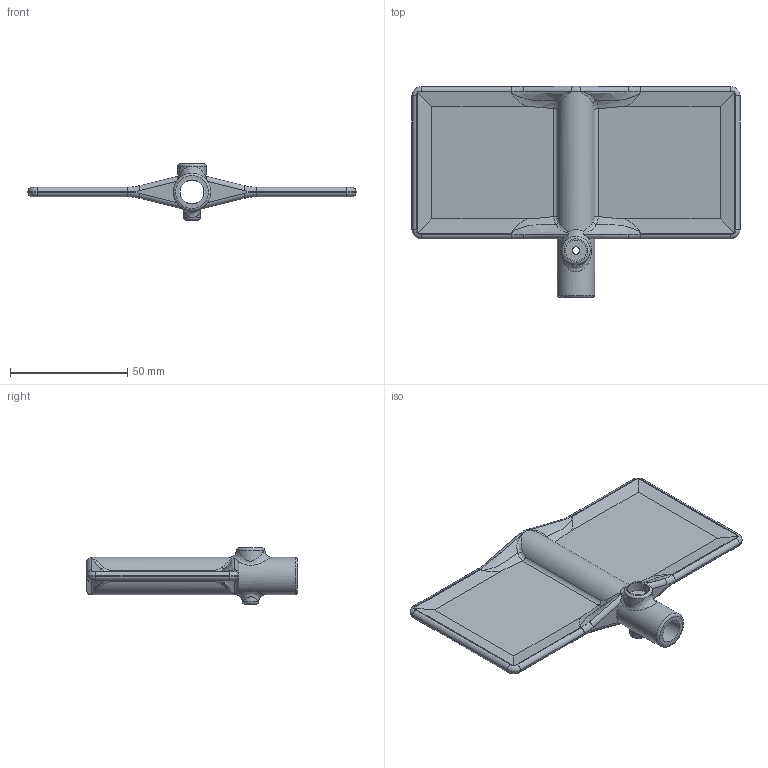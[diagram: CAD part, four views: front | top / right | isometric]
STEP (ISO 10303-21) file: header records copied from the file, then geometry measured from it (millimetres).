
FILE_DESCRIPTION(/* description */ ('ELICA COMPLETA AC9 PLASTICA - 2 PALE 140x65 (D3461)'),/* implementation_level */ '2;1');
FILE_NAME(/* name */ 'AC9.stp',/* time_stamp */ '2024-03-22T10:49:54+01:00',/* author */ ('filippo.guidetti'),/* organization */ (''),/* preprocessor_version */ 'ST-DEVELOPER v20',/* originating_system */ 'Autodesk Inventor 2024',/* authorisation */ 'Giovanni Guazzetti');
FILE_SCHEMA (('AUTOMOTIVE_DESIGN { 1 0 10303 214 3 1 1 }'));
Length unit declared in the file: millimetre
Products named in the file (1): 0404_013_0
Bounding box: 140 x 90 x 24 mm (x, y, z)
Volume: 32260.4 mm3; surface area: 24949.7 mm2
Topology: 1 solids, 1 shells, 158 faces, 415 edges, 246 vertices
Faces by surface type: cylinder 58, plane 45, bspline 34, torus 21
Full cylindrical faces by diameter (mm): 3.2 x2, 9 x1, 10.2 x1, 16 x1
Entity records: 7233 total; most frequent: CARTESIAN_POINT 3648, ORIENTED_EDGE 800, DIRECTION 649, EDGE_CURVE 400, AXIS2_PLACEMENT_3D 254, VERTEX_POINT 246, EDGE_LOOP 166, FACE_OUTER_BOUND 158
